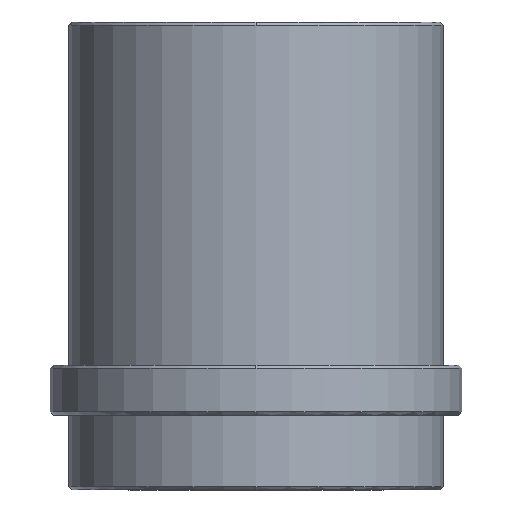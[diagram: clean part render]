
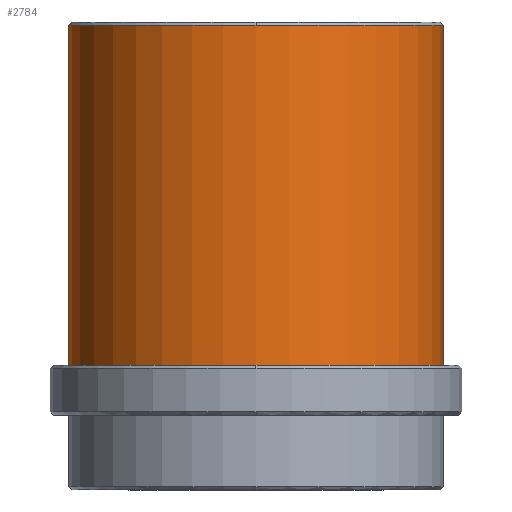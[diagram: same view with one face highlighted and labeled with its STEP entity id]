
A CAD part, front view. The second image highlights one B-rep face of the part: STEP entity #2784.
In plain terms, the highlighted cylindrical face has radius 30 mm (diameter 60 mm), a partial arc.
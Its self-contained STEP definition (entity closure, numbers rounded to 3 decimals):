
#2605=CARTESIAN_POINT('Vertex',(30.,0.,62.5)) ;
#2629=CARTESIAN_POINT('Vertex',(-30.,0.,62.5)) ;
#2653=CARTESIAN_POINT('Vertex',(0.,-30.,62.5)) ;
#2656=CARTESIAN_POINT('Axis2P3D Location',(0.,0.,62.5)) ;
#2673=CARTESIAN_POINT('Axis2P3D Location',(0.,0.,62.5)) ;
#2740=CARTESIAN_POINT('Line Origine',(30.,0.,-15.75)) ;
#2744=CARTESIAN_POINT('Vertex',(30.,0.,8.)) ;
#2751=CARTESIAN_POINT('Vertex',(-30.,0.,8.)) ;
#2754=CARTESIAN_POINT('Line Origine',(-30.,0.,-15.75)) ;
#2767=CARTESIAN_POINT('Axis2P3D Location',(0.,0.,-15.75)) ;
#2772=CARTESIAN_POINT('Axis2P3D Location',(0.,0.,8.)) ;
#2657=DIRECTION('Axis2P3D Direction',(0.,0.,-1.)) ;
#2674=DIRECTION('Axis2P3D Direction',(0.,0.,-1.)) ;
#2741=DIRECTION('Vector Direction',(0.,0.,1.)) ;
#2755=DIRECTION('Vector Direction',(0.,0.,1.)) ;
#2768=DIRECTION('Axis2P3D Direction',(0.,0.,1.)) ;
#2769=DIRECTION('Axis2P3D XDirection',(-1.,0.,0.)) ;
#2773=DIRECTION('Axis2P3D Direction',(0.,0.,1.)) ;
#2658=AXIS2_PLACEMENT_3D('Circle Axis2P3D',#2656,#2657,$) ;
#2675=AXIS2_PLACEMENT_3D('Circle Axis2P3D',#2673,#2674,$) ;
#2770=AXIS2_PLACEMENT_3D('Cylinder Axis2P3D',#2767,#2768,#2769) ;
#2774=AXIS2_PLACEMENT_3D('Circle Axis2P3D',#2772,#2773,$) ;
#2778=ORIENTED_EDGE('',*,*,#2758,.T.) ;
#2779=ORIENTED_EDGE('',*,*,#2776,.F.) ;
#2780=ORIENTED_EDGE('',*,*,#2746,.F.) ;
#2781=ORIENTED_EDGE('',*,*,#2677,.T.) ;
#2782=ORIENTED_EDGE('',*,*,#2660,.T.) ;
#2742=VECTOR('Line Direction',#2741,1.) ;
#2756=VECTOR('Line Direction',#2755,1.) ;
#2784=ADVANCED_FACE('MANIFOLD_SOLID_BREP #2384',(#2783),#2771,.T.) ;
#2659=CIRCLE('generated circle',#2658,30.) ;
#2676=CIRCLE('generated circle',#2675,30.) ;
#2775=CIRCLE('generated circle',#2774,30.) ;
#2771=CYLINDRICAL_SURFACE('generated cylinder',#2770,30.) ;
#2660=EDGE_CURVE('',#2654,#2630,#2659,.T.) ;
#2677=EDGE_CURVE('',#2606,#2654,#2676,.T.) ;
#2746=EDGE_CURVE('',#2606,#2745,#2743,.F.) ;
#2758=EDGE_CURVE('',#2630,#2752,#2757,.F.) ;
#2776=EDGE_CURVE('',#2745,#2752,#2775,.F.) ;
#2777=EDGE_LOOP('',(#2778,#2779,#2780,#2781,#2782)) ;
#2783=FACE_OUTER_BOUND('',#2777,.T.) ;
#2743=LINE('Line',#2740,#2742) ;
#2757=LINE('Line',#2754,#2756) ;
#2606=VERTEX_POINT('',#2605) ;
#2630=VERTEX_POINT('',#2629) ;
#2654=VERTEX_POINT('',#2653) ;
#2745=VERTEX_POINT('',#2744) ;
#2752=VERTEX_POINT('',#2751) ;
